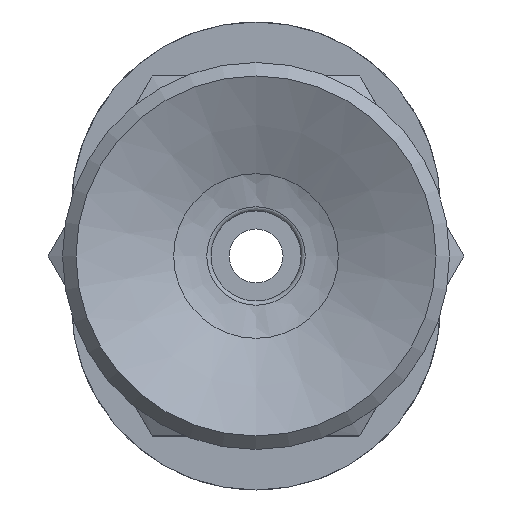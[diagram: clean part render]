
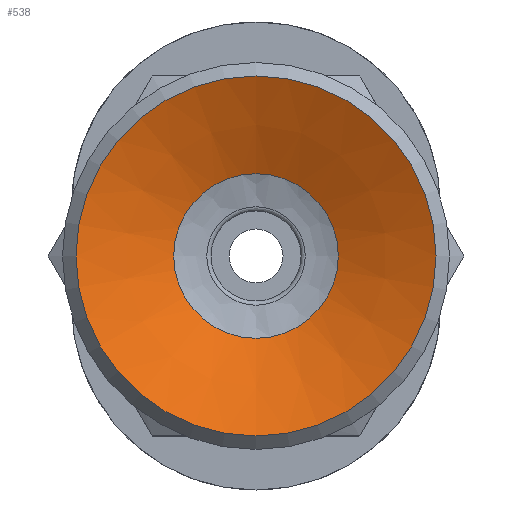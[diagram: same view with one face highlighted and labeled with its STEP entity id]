
A CAD part, front view. The second image highlights one B-rep face of the part: STEP entity #538.
In plain terms, the highlighted conical face has half-angle 65 degrees and reference radius 1.427 mm.
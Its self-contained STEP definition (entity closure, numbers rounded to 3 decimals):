
#538=ADVANCED_FACE('',(#801,#802),#803,.F.);
#801=FACE_BOUND('',#1159,.T.);
#802=FACE_OUTER_BOUND('',#1160,.T.);
#803=CONICAL_SURFACE('',#1161,1.427,1.134);
#1159=EDGE_LOOP('',(#2104));
#1160=EDGE_LOOP('',(#2105));
#1161=AXIS2_PLACEMENT_3D('',#2106,#2107,#2108);
#2104=ORIENTED_EDGE('',*,*,#2615,.T.);
#2105=ORIENTED_EDGE('',*,*,#2608,.T.);
#2106=CARTESIAN_POINT('',(0.0,7.096,0.));
#2107=DIRECTION('',(-0.0,-1.0,0.));
#2108=DIRECTION('',(0.0,0.,-1.0));
#2608=EDGE_CURVE('',#2945,#2945,#2946,.T.);
#2615=EDGE_CURVE('',#2959,#2959,#2960,.T.);
#2945=VERTEX_POINT('',#3657);
#2946=CIRCLE('',#3658,4.0);
#2959=VERTEX_POINT('',#3671);
#2960=CIRCLE('',#3672,1.828);
#3657=CARTESIAN_POINT('',(0.0,5.896,-4.0));
#3658=AXIS2_PLACEMENT_3D('',#4312,#4313,#4314);
#3671=CARTESIAN_POINT('',(0.0,6.909,-1.828));
#3672=AXIS2_PLACEMENT_3D('',#4333,#4334,#4335);
#4312=CARTESIAN_POINT('',(0.0,5.896,0.0));
#4313=DIRECTION('',(0.0,-1.0,0.));
#4314=DIRECTION('',(0.0,0.,-1.0));
#4333=CARTESIAN_POINT('',(0.0,6.909,0.0));
#4334=DIRECTION('',(0.0,1.0,0.));
#4335=DIRECTION('',(0.0,0.,-1.0));
